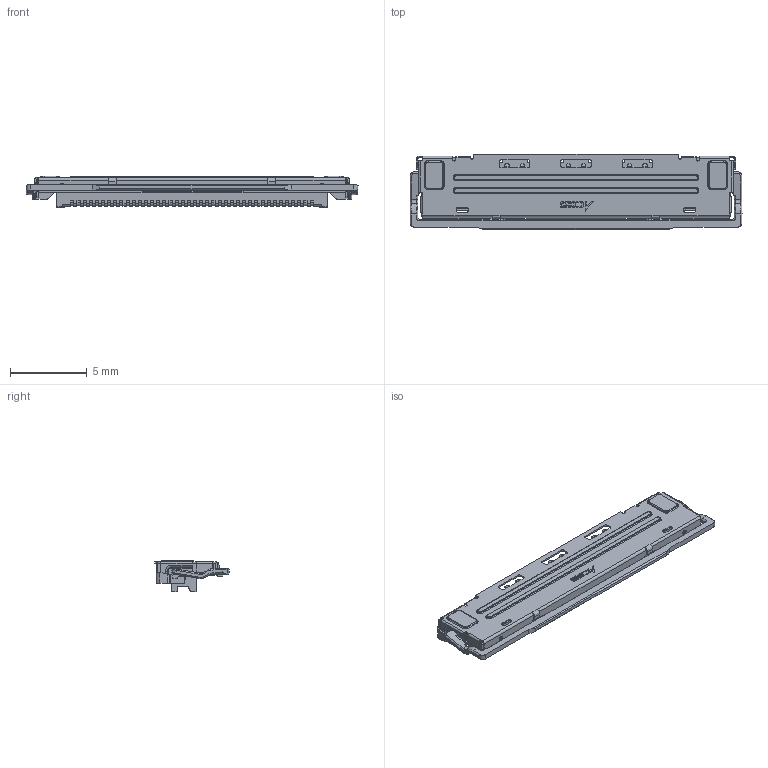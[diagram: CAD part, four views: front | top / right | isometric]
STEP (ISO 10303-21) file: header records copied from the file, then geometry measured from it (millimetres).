
FILE_DESCRIPTION((''),'2;1');
FILE_NAME('S-51496-040XX-XXX_ASM','2023-08-22T14:32:39',('User'),(''),'CREO PARAMETRIC BY PTC INC, 2021063','CREO PARAMETRIC BY PTC INC, 2021063','');
FILE_SCHEMA(('CONFIG_CONTROL_DESIGN'));
Products named in the file (3): S-51496-040XX-XXX; S-51496-MBXX-040; S-51496-040XX-XXX_ASM
Assembly tree (2 placements, depth 2):
  S-51496-040XX-XXX_ASM
    S-51496-040XX-XXX
    S-51496-MBXX-040
Bounding box: 21.65 x 4.89 x 2.04 mm (x, y, z)
Volume: 59.9 mm3; surface area: 542.7 mm2
Topology: 2 solids, 2 shells, 2674 faces, 7335 edges, 4718 vertices
Faces by surface type: plane 1752, cylinder 758, bspline 80, torus 56, extrusion 16, cone 8, sphere 4
Entity records: 88069 total; most frequent: CARTESIAN_POINT 19495, ORIENTED_EDGE 14654, DIRECTION 13978, EDGE_CURVE 7327, VECTOR 5330, LINE 5314, VERTEX_POINT 4718, AXIS2_PLACEMENT_3D 4324
